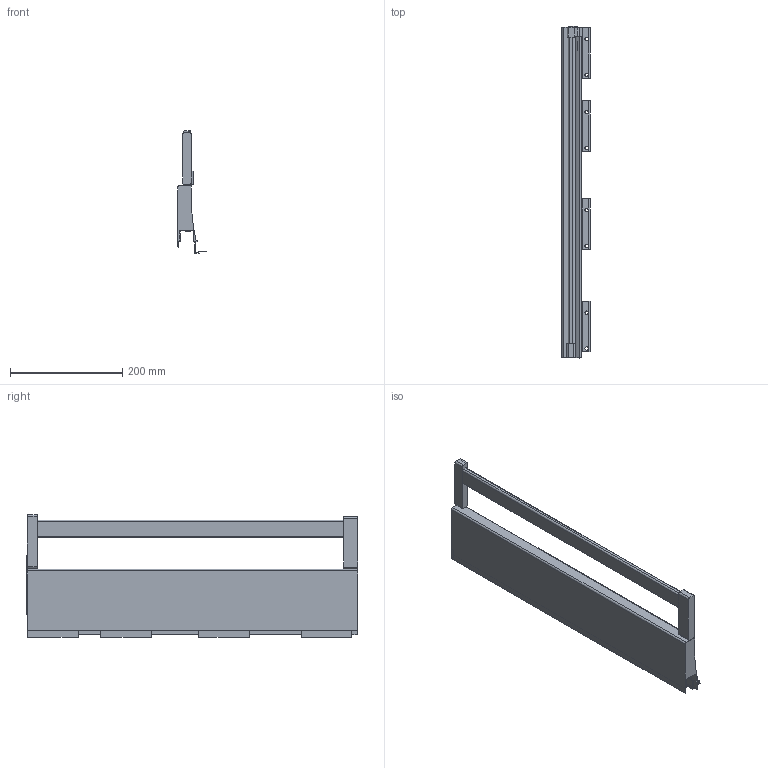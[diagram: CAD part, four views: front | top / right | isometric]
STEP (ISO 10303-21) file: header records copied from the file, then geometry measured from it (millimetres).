
FILE_DESCRIPTION (( 'STEP AP214' ), '1' );
FILE_NAME ('_XP Agantis Dekorseite H127 NL600 LI Rechteckreling.step', '2010-07-08T06:24:30', ( 'grass' ), ( '' ), 'SwSTEP 2.0', 'SolidWorks 2010', '' );
FILE_SCHEMA (( 'AUTOMOTIVE_DESIGN' ));
Length unit declared in the file: millimetre
Products named in the file (1): _XP Agantis Dekorseite H127 NL600 LI Rechteckreling
Bounding box: 50.01 x 592.45 x 219 mm (x, y, z)
Volume: 1520177.6 mm3; surface area: 296704.3 mm2
Topology: 2 solids, 2 shells, 211 faces, 606 edges, 396 vertices
Faces by surface type: plane 166, cylinder 45
Entity records: 6991 total; most frequent: CARTESIAN_POINT 1301, ORIENTED_EDGE 1212, DIRECTION 1117, EDGE_CURVE 606, LINE 515, VECTOR 515, VERTEX_POINT 396, AXIS2_PLACEMENT_3D 301
